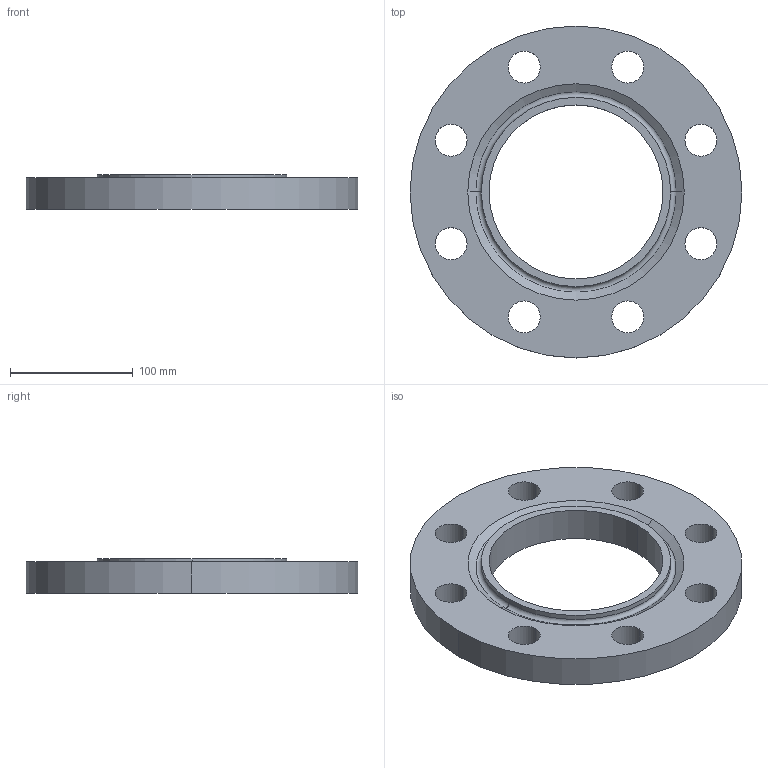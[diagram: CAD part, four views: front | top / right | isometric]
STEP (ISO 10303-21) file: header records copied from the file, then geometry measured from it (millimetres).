
FILE_DESCRIPTION (( 'STEP AP214' ), '1' );
FILE_NAME ('PN40 DN125 Type 01 - Type H Face.STEP', '2019-01-02T19:37:24', ( '' ), ( '' ), 'SwSTEP 2.0', 'SolidWorks 2019', '' );
FILE_SCHEMA (( 'AUTOMOTIVE_DESIGN' ));
Length unit declared in the file: millimetre
Products named in the file (1): PN40 DN125 Type 01 - Type H Face
Bounding box: 270 x 270 x 28 mm (x, y, z)
Volume: 941912.9 mm3; surface area: 128739.5 mm2
Topology: 1 solids, 1 shells, 29 faces, 74 edges, 48 vertices
Faces by surface type: cylinder 22, plane 3, torus 2, cone 2
Entity records: 976 total; most frequent: DIRECTION 184, CARTESIAN_POINT 152, ORIENTED_EDGE 148, AXIS2_PLACEMENT_3D 80, EDGE_CURVE 74, CIRCLE 50, EDGE_LOOP 48, VERTEX_POINT 48
